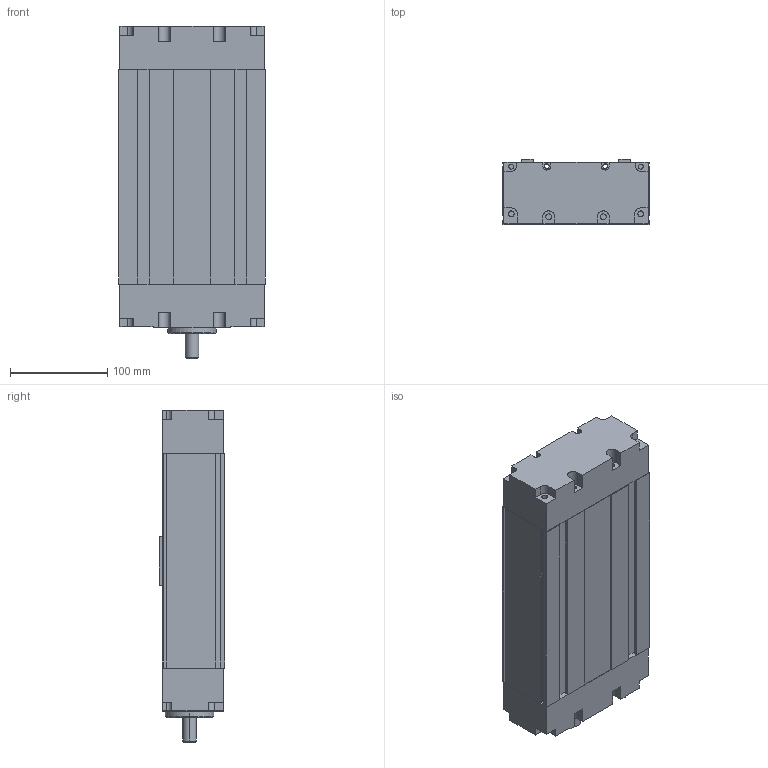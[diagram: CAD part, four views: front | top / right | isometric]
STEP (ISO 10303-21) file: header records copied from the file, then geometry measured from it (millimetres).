
FILE_DESCRIPTION (( 'STEP AP203' ), '1' );
FILE_NAME ('MSY150B-100-LL2005-P7.STEP', '2013-11-02T03:31:00', ( '微软用户' ), ( '微软中国' ), 'SwSTEP 2.0', 'SolidWorks 2010', '' );
FILE_SCHEMA (( 'CONFIG_CONTROL_DESIGN' ));
Length unit declared in the file: millimetre
Products named in the file (1): MSY150B-100-LL2005-P7
Bounding box: 150 x 67 x 341 mm (x, y, z)
Volume: 2597910.2 mm3; surface area: 296960.8 mm2
Topology: 1 solids, 1 shells, 309 faces, 837 edges, 538 vertices
Faces by surface type: plane 236, cylinder 61, cone 12
Entity records: 9622 total; most frequent: CARTESIAN_POINT 1677, ORIENTED_EDGE 1658, DIRECTION 1575, EDGE_CURVE 829, VECTOR 703, LINE 703, VERTEX_POINT 538, AXIS2_PLACEMENT_3D 436
